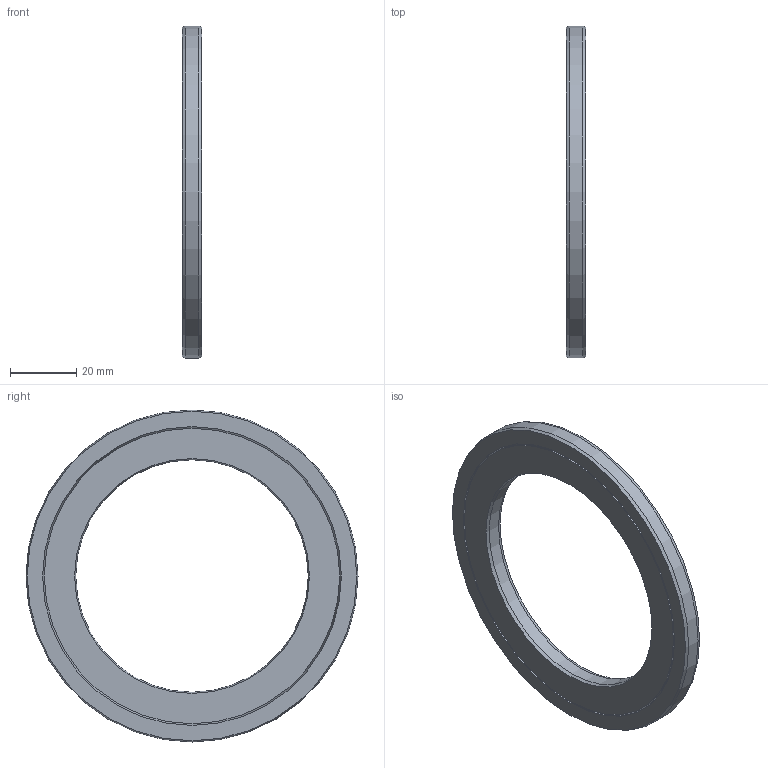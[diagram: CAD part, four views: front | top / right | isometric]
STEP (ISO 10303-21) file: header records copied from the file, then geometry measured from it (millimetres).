
FILE_DESCRIPTION(/* description */ (''),/* implementation_level */ '2;1');
FILE_NAME(/* name */ '307173 CF 61914 S10.stp',/* time_stamp */ '2016-12-16T11:58:16+01:00',/* author */ (''),/* organization */ (''),/* preprocessor_version */ 'ST-DEVELOPER v15',/* originating_system */ 'SIEMENS PLM Software NX 8.5',/* authorisation */ '');
FILE_SCHEMA (('CONFIG_CONTROL_DESIGN'));
Length unit declared in the file: millimetre
Products named in the file (1): ATE0000139_01
Bounding box: 6 x 100 x 100 mm (x, y, z)
Volume: 21895.5 mm3; surface area: 18401.7 mm2
Topology: 2 solids, 2 shells, 26 faces, 46 edges, 28 vertices
Faces by surface type: cone 10, plane 8, cylinder 8
Full cylindrical faces by diameter (mm): 70 x1, 77.5 x1, 78.5 x1, 80 x1, 81 x1, 89 x1, 90 x1, 100 x1
Entity records: 614 total; most frequent: DIRECTION 106, CARTESIAN_POINT 79, AXIS2_PLACEMENT_3D 53, FACE_BOUND 52, EDGE_LOOP 52, ORIENTED_EDGE 52, ADVANCED_FACE 26, VERTEX_POINT 26
